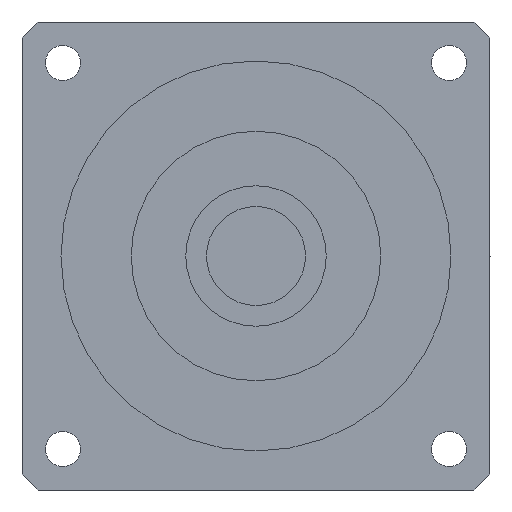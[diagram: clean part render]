
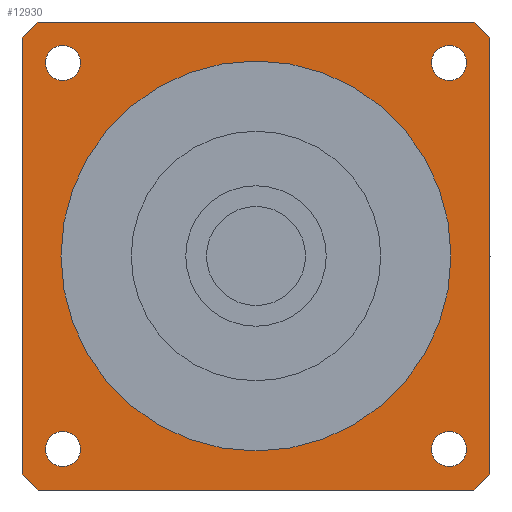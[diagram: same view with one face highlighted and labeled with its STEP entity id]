
A CAD part, left-side view. The second image highlights one B-rep face of the part: STEP entity #12930.
In plain terms, the highlighted planar face has unit normal (-1, 0, 0) as drawn and (0, 0, -1) by its records, which use the part's own axes.
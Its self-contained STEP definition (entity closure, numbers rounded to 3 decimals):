
#8750=CARTESIAN_POINT('',(-22.499,24.749,-41.5));
#8760=VERTEX_POINT('',#8750);
#8790=CARTESIAN_POINT('',(-24.749,24.749,-41.5));
#8800=DIRECTION('',(0.,0.,-1.));
#8810=DIRECTION('',(-1.,0.,0.));
#8820=AXIS2_PLACEMENT_3D('',#8790,#8800,#8810);
#8830=CIRCLE('',#8820,2.25);
#8840=CARTESIAN_POINT('',(-26.999,24.749,-41.5));
#8850=VERTEX_POINT('',#8840);
#8860=EDGE_CURVE('',#8850,#8760,#8830,.T.);
#9210=CARTESIAN_POINT('',(24.749,22.499,-41.5));
#9220=VERTEX_POINT('',#9210);
#9250=CARTESIAN_POINT('',(24.749,24.749,-41.5));
#9260=DIRECTION('',(0.,0.,-1.));
#9270=DIRECTION('',(0.,1.,0.));
#9280=AXIS2_PLACEMENT_3D('',#9250,#9260,#9270);
#9290=CIRCLE('',#9280,2.25);
#9300=CARTESIAN_POINT('',(24.749,26.999,-41.5));
#9310=VERTEX_POINT('',#9300);
#9320=EDGE_CURVE('',#9310,#9220,#9290,.T.);
#11440=CARTESIAN_POINT('',(25.,0.,-41.5));
#11450=VERTEX_POINT('',#11440);
#11480=CARTESIAN_POINT('',(0.,0.,
-41.5));
#11490=DIRECTION('',(0.,0.,1.));
#11500=DIRECTION('',(0.,1.,0.));
#11510=AXIS2_PLACEMENT_3D('',#11480,#11490,#11500);
#11520=CIRCLE('',#11510,25.);
#11530=CARTESIAN_POINT('',(0.,25.,-41.5));
#11540=VERTEX_POINT('',#11530);
#11550=EDGE_CURVE('',#11450,#11540,#11520,.T.);
#11570=CARTESIAN_POINT('',(-25.,0.,-41.5));
#11580=VERTEX_POINT('',#11570);
#11590=EDGE_CURVE('',#11540,#11580,#11520,.T.);
#11720=CARTESIAN_POINT('',(30.,30.,-41.5));
#11730=DIRECTION('',(0.,0.,-1.));
#11740=DIRECTION('',(1.,0.,0.));
#11750=AXIS2_PLACEMENT_3D('',#11720,#11730,#11740);
#11760=PLANE('',#11750);
#11770=CARTESIAN_POINT('',(-24.749,-24.749,-41.5));
#11780=DIRECTION('',(0.,0.,-1.));
#11790=DIRECTION('',(0.,-1.,0.));
#11800=AXIS2_PLACEMENT_3D('',#11770,#11780,#11790);
#11810=CIRCLE('',#11800,2.25);
#11820=CARTESIAN_POINT('',(-24.749,-26.999,-41.5));
#11830=VERTEX_POINT('',#11820);
#11840=CARTESIAN_POINT('',(-24.749,-22.499,-41.5));
#11850=VERTEX_POINT('',#11840);
#11860=EDGE_CURVE('',#11830,#11850,#11810,.T.);
#11870=ORIENTED_EDGE('',*,*,#11860,.F.);
#11880=EDGE_CURVE('',#11850,#11830,#11810,.T.);
#11890=ORIENTED_EDGE('',*,*,#11880,.F.);
#11900=EDGE_LOOP('',(#11890,#11870));
#11910=FACE_BOUND('',#11900,.T.);
#11920=ORIENTED_EDGE('',*,*,#8860,.F.);
#11930=EDGE_CURVE('',#8760,#8850,#8830,.T.);
#11940=ORIENTED_EDGE('',*,*,#11930,.F.);
#11950=EDGE_LOOP('',(#11940,#11920));
#11960=FACE_BOUND('',#11950,.T.);
#11970=ORIENTED_EDGE('',*,*,#9320,.F.);
#11980=EDGE_CURVE('',#9220,#9310,#9290,.T.);
#11990=ORIENTED_EDGE('',*,*,#11980,.F.);
#12000=EDGE_LOOP('',(#11990,#11970));
#12010=FACE_BOUND('',#12000,.T.);
#12020=EDGE_CURVE('',#11580,#11450,#11520,.T.);
#12030=ORIENTED_EDGE('',*,*,#12020,.T.);
#12040=ORIENTED_EDGE('',*,*,#11590,.T.);
#12050=ORIENTED_EDGE('',*,*,#11550,.T.);
#12060=EDGE_LOOP('',(#12050,#12040,#12030));
#12070=FACE_BOUND('',#12060,.T.);
#12080=CARTESIAN_POINT('',(-30.,30.,-41.5));
#12090=DIRECTION('',(1.,0.,0.));
#12100=VECTOR('',#12090,1000.);
#12110=LINE('',#12080,#12100);
#12120=CARTESIAN_POINT('',(-27.946,30.,-41.5));
#12130=VERTEX_POINT('',#12120);
#12140=CARTESIAN_POINT('',(27.946,30.,-41.5));
#12150=VERTEX_POINT('',#12140);
#12160=EDGE_CURVE('',#12130,#12150,#12110,.T.);
#12170=ORIENTED_EDGE('',*,*,#12160,.T.);
#12180=CARTESIAN_POINT('',(0.,0.,
-41.5));
#12190=DIRECTION('',(0.,0.,-1.));
#12200=DIRECTION('',(1.,0.,0.));
#12210=AXIS2_PLACEMENT_3D('',#12180,#12190,#12200);
#12220=CIRCLE('',#12210,41.);
#12230=CARTESIAN_POINT('',(-30.,27.946,-41.5));
#12240=VERTEX_POINT('',#12230);
#12250=EDGE_CURVE('',#12240,#12130,#12220,.T.);
#12260=ORIENTED_EDGE('',*,*,#12250,.T.);
#12270=CARTESIAN_POINT('',(-30.,-30.,-41.5));
#12280=DIRECTION('',(0.,1.,0.));
#12290=VECTOR('',#12280,1000.);
#12300=LINE('',#12270,#12290);
#12310=CARTESIAN_POINT('',(-30.,-27.946,-41.5));
#12320=VERTEX_POINT('',#12310);
#12330=EDGE_CURVE('',#12320,#12240,#12300,.T.);
#12340=ORIENTED_EDGE('',*,*,#12330,.T.);
#12350=CARTESIAN_POINT('',(0.,0.,
-41.5));
#12360=DIRECTION('',(0.,0.,-1.));
#12370=DIRECTION('',(1.,0.,0.));
#12380=AXIS2_PLACEMENT_3D('',#12350,#12360,#12370);
#12390=CIRCLE('',#12380,41.);
#12400=CARTESIAN_POINT('',(-27.946,-30.,-41.5));
#12410=VERTEX_POINT('',#12400);
#12420=EDGE_CURVE('',#12410,#12320,#12390,.T.);
#12430=ORIENTED_EDGE('',*,*,#12420,.T.);
#12440=CARTESIAN_POINT('',(30.,-30.,-41.5));
#12450=DIRECTION('',(-1.,0.,0.));
#12460=VECTOR('',#12450,1000.);
#12470=LINE('',#12440,#12460);
#12480=CARTESIAN_POINT('',(27.946,-30.,-41.5));
#12490=VERTEX_POINT('',#12480);
#12500=EDGE_CURVE('',#12490,#12410,#12470,.T.);
#12510=ORIENTED_EDGE('',*,*,#12500,.T.);
#12520=CARTESIAN_POINT('',(0.,0.,
-41.5));
#12530=DIRECTION('',(0.,0.,-1.));
#12540=DIRECTION('',(1.,0.,0.));
#12550=AXIS2_PLACEMENT_3D('',#12520,#12530,#12540);
#12560=CIRCLE('',#12550,41.);
#12570=CARTESIAN_POINT('',(30.,-27.946,-41.5));
#12580=VERTEX_POINT('',#12570);
#12590=EDGE_CURVE('',#12580,#12490,#12560,.T.);
#12600=ORIENTED_EDGE('',*,*,#12590,.T.);
#12610=CARTESIAN_POINT('',(30.,30.,-41.5));
#12620=DIRECTION('',(0.,-1.,0.));
#12630=VECTOR('',#12620,1000.);
#12640=LINE('',#12610,#12630);
#12650=CARTESIAN_POINT('',(30.,27.946,-41.5));
#12660=VERTEX_POINT('',#12650);
#12670=EDGE_CURVE('',#12660,#12580,#12640,.T.);
#12680=ORIENTED_EDGE('',*,*,#12670,.T.);
#12690=CARTESIAN_POINT('',(0.,0.,
-41.5));
#12700=DIRECTION('',(0.,0.,-1.));
#12710=DIRECTION('',(1.,0.,0.));
#12720=AXIS2_PLACEMENT_3D('',#12690,#12700,#12710);
#12730=CIRCLE('',#12720,41.);
#12740=EDGE_CURVE('',#12150,#12660,#12730,.T.);
#12750=ORIENTED_EDGE('',*,*,#12740,.T.);
#12760=EDGE_LOOP('',(#12750,#12680,#12600,#12510,#12430,#12340,#12260,
#12170));
#12770=FACE_OUTER_BOUND('',#12760,.T.);
#12780=CARTESIAN_POINT('',(24.749,-24.749,-41.5));
#12790=DIRECTION('',(0.,0.,-1.));
#12800=DIRECTION('',(1.,0.,0.));
#12810=AXIS2_PLACEMENT_3D('',#12780,#12790,#12800);
#12820=CIRCLE('',#12810,2.25);
#12830=CARTESIAN_POINT('',(26.999,-24.749,-41.5));
#12840=VERTEX_POINT('',#12830);
#12850=CARTESIAN_POINT('',(22.499,-24.749,-41.5));
#12860=VERTEX_POINT('',#12850);
#12870=EDGE_CURVE('',#12840,#12860,#12820,.T.);
#12880=ORIENTED_EDGE('',*,*,#12870,.F.);
#12890=EDGE_CURVE('',#12860,#12840,#12820,.T.);
#12900=ORIENTED_EDGE('',*,*,#12890,.F.);
#12910=EDGE_LOOP('',(#12900,#12880));
#12920=FACE_BOUND('',#12910,.T.);
#12930=ADVANCED_FACE('',(#11910,#11960,#12010,#12070,#12770,#12920),
#11760,.T.);
